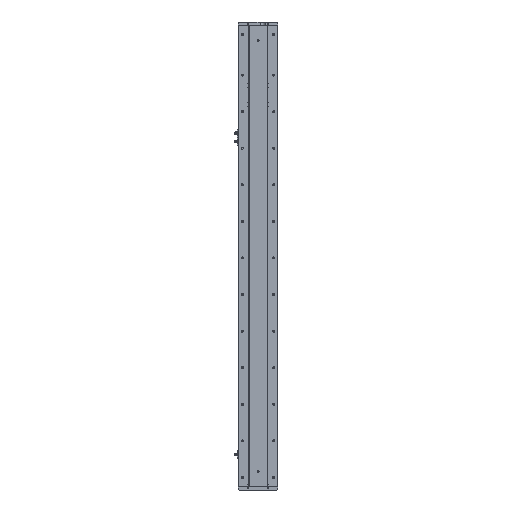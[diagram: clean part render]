
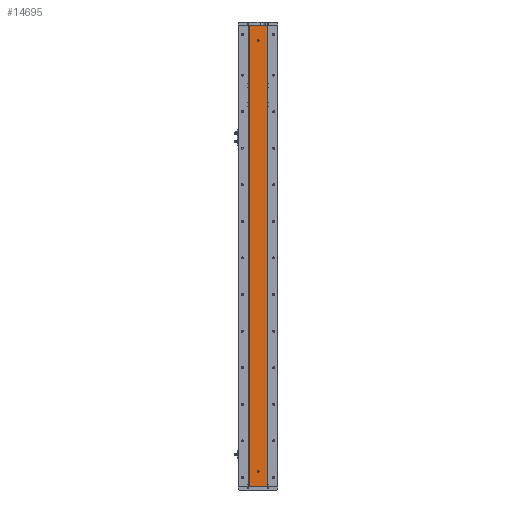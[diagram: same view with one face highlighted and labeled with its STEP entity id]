
A CAD part, left-side view. The second image highlights one B-rep face of the part: STEP entity #14695.
In plain terms, the highlighted planar face has unit normal (-1, 0, 0).
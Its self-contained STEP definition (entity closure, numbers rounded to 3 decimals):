
#1017 = CARTESIAN_POINT ( 'NONE',  ( -24.994, 0., 47. ) ) ;
#1289 = CARTESIAN_POINT ( 'NONE',  ( -24.994, 29.785, 1515. ) ) ;
#1643 = CARTESIAN_POINT ( 'NONE',  ( -24.994, 0., 1462. ) ) ;
#2018 = EDGE_CURVE ( 'NONE', #11426, #16601, #10039, .T. ) ;
#2224 = DIRECTION ( 'NONE',  ( 1., 0., 0. ) ) ;
#2236 = CARTESIAN_POINT ( 'NONE',  ( -24.994, -29.785, 0. ) ) ;
#2357 = LINE ( 'NONE', #38262, #10942 ) ;
#2684 = DIRECTION ( 'NONE',  ( -1., 0., 0. ) ) ;
#3031 = CARTESIAN_POINT ( 'NONE',  ( -24.994, 0., 53. ) ) ;
#3397 = VERTEX_POINT ( 'NONE', #2236 ) ;
#4783 = VECTOR ( 'NONE', #36629, 1000. ) ;
#4925 = CARTESIAN_POINT ( 'NONE',  ( -24.994, 0., 1468. ) ) ;
#5146 = VERTEX_POINT ( 'NONE', #32738 ) ;
#5944 = AXIS2_PLACEMENT_3D ( 'NONE', #9043, #31539, #12289 ) ;
#6177 = ORIENTED_EDGE ( 'NONE', *, *, #25092, .F. ) ;
#6448 = ORIENTED_EDGE ( 'NONE', *, *, #16642, .T. ) ;
#7094 = ORIENTED_EDGE ( 'NONE', *, *, #39736, .T. ) ;
#7904 = AXIS2_PLACEMENT_3D ( 'NONE', #21501, #2224, #24761 ) ;
#8295 = LINE ( 'NONE', #15019, #32955 ) ;
#8322 = DIRECTION ( 'NONE',  ( 0., 0., -1. ) ) ;
#8610 = VECTOR ( 'NONE', #8322, 1000. ) ;
#9043 = CARTESIAN_POINT ( 'NONE',  ( -24.994, 0., 50. ) ) ;
#9394 = DIRECTION ( 'NONE',  ( 0., -1., 0. ) ) ;
#9578 = CIRCLE ( 'NONE', #5944, 3. ) ;
#10039 = CIRCLE ( 'NONE', #28304, 3. ) ;
#10088 = EDGE_LOOP ( 'NONE', ( #7094, #38005, #6177, #6448 ) ) ;
#10516 = EDGE_CURVE ( 'NONE', #30493, #38744, #9578, .T. ) ;
#10924 = FACE_BOUND ( 'NONE', #39672, .T. ) ;
#10942 = VECTOR ( 'NONE', #9394, 1000. ) ;
#11426 = VERTEX_POINT ( 'NONE', #1643 ) ;
#12255 = AXIS2_PLACEMENT_3D ( 'NONE', #15267, #37835, #18542 ) ;
#12289 = DIRECTION ( 'NONE',  ( 0., 0., 1. ) ) ;
#13578 = CARTESIAN_POINT ( 'NONE',  ( -24.994, 0., 1465. ) ) ;
#14370 = LINE ( 'NONE', #1289, #4783 ) ;
#14695 = ADVANCED_FACE ( 'NONE', ( #35571, #10924, #27003 ), #20803, .F. ) ;
#14724 = EDGE_CURVE ( 'NONE', #16601, #11426, #31520, .T. ) ;
#15019 = CARTESIAN_POINT ( 'NONE',  ( -24.994, -29.785, 1515. ) ) ;
#15267 = CARTESIAN_POINT ( 'NONE',  ( -24.994, 0., 1465. ) ) ;
#16601 = VERTEX_POINT ( 'NONE', #4925 ) ;
#16642 = EDGE_CURVE ( 'NONE', #5146, #32040, #34302, .T. ) ;
#16808 = DIRECTION ( 'NONE',  ( 0., 0., 1. ) ) ;
#18542 = DIRECTION ( 'NONE',  ( 0., 0., 1. ) ) ;
#18759 = AXIS2_PLACEMENT_3D ( 'NONE', #21976, #2684, #25214 ) ;
#20803 = PLANE ( 'NONE',  #7904 ) ;
#21501 = CARTESIAN_POINT ( 'NONE',  ( -24.994, 29.785, 1515. ) ) ;
#21976 = CARTESIAN_POINT ( 'NONE',  ( -24.994, 0., 50. ) ) ;
#24761 = DIRECTION ( 'NONE',  ( 0., 0., -1. ) ) ;
#25092 = EDGE_CURVE ( 'NONE', #5146, #31852, #14370, .T. ) ;
#25214 = DIRECTION ( 'NONE',  ( 0., 0., 1. ) ) ;
#27003 = FACE_OUTER_BOUND ( 'NONE', #10088, .T. ) ;
#27098 = CIRCLE ( 'NONE', #18759, 3. ) ;
#27853 = ORIENTED_EDGE ( 'NONE', *, *, #39031, .F. ) ;
#28304 = AXIS2_PLACEMENT_3D ( 'NONE', #13578, #36099, #16808 ) ;
#30254 = CARTESIAN_POINT ( 'NONE',  ( -24.994, 29.785, 0. ) ) ;
#30493 = VERTEX_POINT ( 'NONE', #3031 ) ;
#30833 = CARTESIAN_POINT ( 'NONE',  ( -24.994, 29.785, 1515. ) ) ;
#31520 = CIRCLE ( 'NONE', #12255, 3. ) ;
#31539 = DIRECTION ( 'NONE',  ( -1., 0., 0. ) ) ;
#31852 = VERTEX_POINT ( 'NONE', #37233 ) ;
#32040 = VERTEX_POINT ( 'NONE', #30254 ) ;
#32738 = CARTESIAN_POINT ( 'NONE',  ( -24.994, 29.785, 1515. ) ) ;
#32955 = VECTOR ( 'NONE', #34340, 1000. ) ;
#34302 = LINE ( 'NONE', #30833, #8610 ) ;
#34340 = DIRECTION ( 'NONE',  ( 0., 0., -1. ) ) ;
#35091 = EDGE_CURVE ( 'NONE', #31852, #3397, #8295, .T. ) ;
#35571 = FACE_BOUND ( 'NONE', #37481, .T. ) ;
#36099 = DIRECTION ( 'NONE',  ( -1., 0., 0. ) ) ;
#36629 = DIRECTION ( 'NONE',  ( 0., -1., 0. ) ) ;
#37067 = ORIENTED_EDGE ( 'NONE', *, *, #2018, .F. ) ;
#37233 = CARTESIAN_POINT ( 'NONE',  ( -24.994, -29.785, 1515. ) ) ;
#37481 = EDGE_LOOP ( 'NONE', ( #41203, #37067 ) ) ;
#37835 = DIRECTION ( 'NONE',  ( -1., 0., 0. ) ) ;
#38005 = ORIENTED_EDGE ( 'NONE', *, *, #35091, .F. ) ;
#38262 = CARTESIAN_POINT ( 'NONE',  ( -24.994, 29.785, 0. ) ) ;
#38744 = VERTEX_POINT ( 'NONE', #1017 ) ;
#38884 = ORIENTED_EDGE ( 'NONE', *, *, #10516, .F. ) ;
#39031 = EDGE_CURVE ( 'NONE', #38744, #30493, #27098, .T. ) ;
#39672 = EDGE_LOOP ( 'NONE', ( #38884, #27853 ) ) ;
#39736 = EDGE_CURVE ( 'NONE', #32040, #3397, #2357, .T. ) ;
#41203 = ORIENTED_EDGE ( 'NONE', *, *, #14724, .F. ) ;
